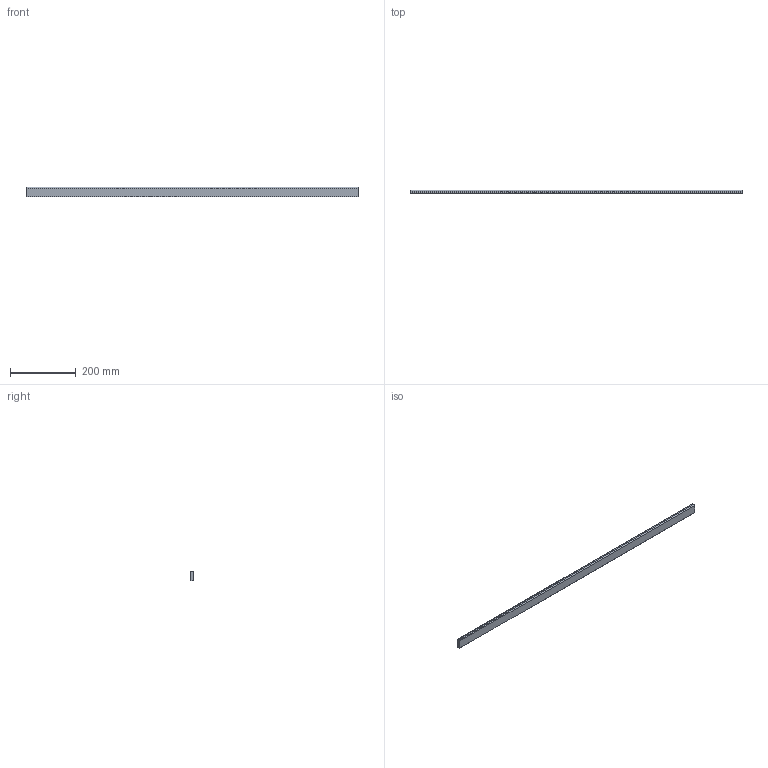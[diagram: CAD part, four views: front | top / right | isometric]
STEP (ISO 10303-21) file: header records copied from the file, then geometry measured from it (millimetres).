
FILE_DESCRIPTION (( 'STEP AP214' ), '1' );
FILE_NAME ('_Querreling_KAB-1100_KS-16.step', '2010-08-26T14:59:06', ( 'grass' ), ( '' ), 'SwSTEP 2.0', 'SolidWorks 2009', '' );
FILE_SCHEMA (( 'AUTOMOTIVE_DESIGN' ));
Length unit declared in the file: millimetre
Products named in the file (1): _Querreling_KAB-1100_KS-16
Bounding box: 1012.5 x 10.5 x 30 mm (x, y, z)
Volume: 314591.8 mm3; surface area: 79157.4 mm2
Topology: 1 solids, 1 shells, 10 faces, 24 edges, 16 vertices
Faces by surface type: plane 6, cylinder 4
Entity records: 330 total; most frequent: DIRECTION 54, CARTESIAN_POINT 51, ORIENTED_EDGE 48, EDGE_CURVE 24, AXIS2_PLACEMENT_3D 19, VECTOR 16, LINE 16, VERTEX_POINT 16
